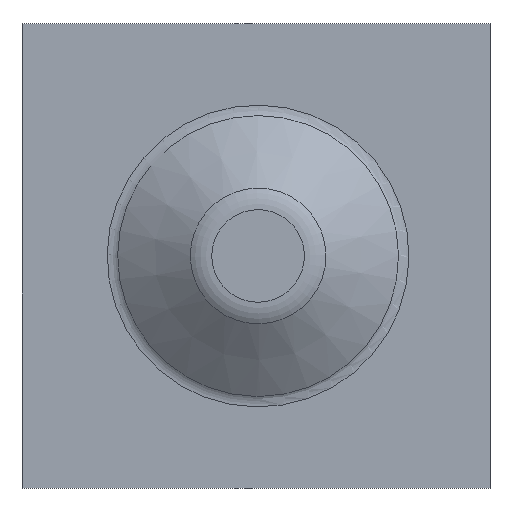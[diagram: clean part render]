
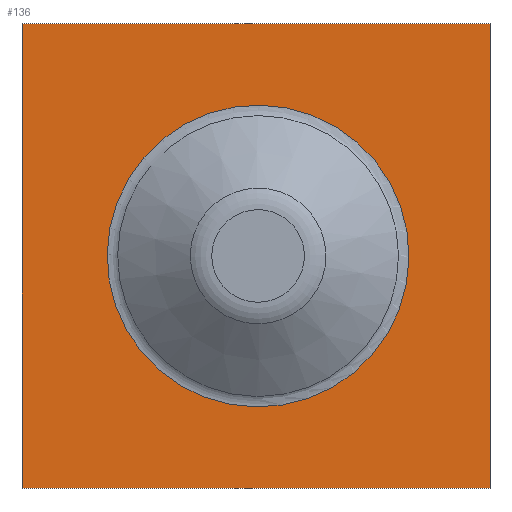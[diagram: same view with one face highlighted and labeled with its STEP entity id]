
A CAD part, top view. The second image highlights one B-rep face of the part: STEP entity #136.
In plain terms, the highlighted planar face has unit normal (0, 0, 1).
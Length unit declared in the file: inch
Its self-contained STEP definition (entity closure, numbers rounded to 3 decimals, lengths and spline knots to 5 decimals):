
#55=CARTESIAN_POINT('',(-5.60162,0.13196,50.86614));
#56=VERTEX_POINT('',#55);
#73=CARTESIAN_POINT('',(-4.08906,0.13196,50.86614));
#74=VERTEX_POINT('',#73);
#81=CARTESIAN_POINT('',(-134.34066,0.13196,50.86614));
#82=DIRECTION('',(1.0,0.0,0.0));
#83=VECTOR('',#82,1.0);
#84=LINE('',#81,#83);
#85=EDGE_CURVE('',#56,#74,#84,.T.);
#95=CARTESIAN_POINT('',(-5.60162,1.63222,50.86614));
#96=VERTEX_POINT('',#95);
#97=CARTESIAN_POINT('',(-5.60162,-937.15051,50.86614));
#98=DIRECTION('',(0.0,1.0,0.0));
#99=VECTOR('',#98,1.0);
#100=LINE('',#97,#99);
#101=EDGE_CURVE('',#56,#96,#100,.T.);
#102=ORIENTED_EDGE('',*,*,#101,.F.);
#103=ORIENTED_EDGE('',*,*,#85,.T.);
#104=CARTESIAN_POINT('',(-4.08906,1.63222,50.86614));
#105=VERTEX_POINT('',#104);
#106=CARTESIAN_POINT('',(-4.08906,-669.53676,50.86614));
#107=DIRECTION('',(0.0,1.0,0.0));
#108=VECTOR('',#107,1.0);
#109=LINE('',#106,#108);
#110=EDGE_CURVE('',#74,#105,#109,.T.);
#111=ORIENTED_EDGE('',*,*,#110,.T.);
#112=CARTESIAN_POINT('',(-987.66062,1.63222,50.86614));
#113=DIRECTION('',(1.0,0.0,0.0));
#114=VECTOR('',#113,1.0);
#115=LINE('',#112,#114);
#116=EDGE_CURVE('',#96,#105,#115,.T.);
#117=ORIENTED_EDGE('',*,*,#116,.F.);
#118=EDGE_LOOP('',(#102,#103,#111,#117));
#119=FACE_OUTER_BOUND('',#118,.T.);
#120=CARTESIAN_POINT('',(-4.84596,0.39428,50.86614));
#121=VERTEX_POINT('',#120);
#122=CARTESIAN_POINT('',(-4.83858,0.88189,50.86614));
#123=DIRECTION('',(0.0,0.0,-1.0));
#124=DIRECTION('',(0.0,-1.0,0.0));
#125=AXIS2_PLACEMENT_3D('',#122,#123,#124);
#126=CIRCLE('',#125,0.48766);
#127=EDGE_CURVE('',#121,#121,#126,.T.);
#128=ORIENTED_EDGE('',*,*,#127,.T.);
#129=EDGE_LOOP('',(#128));
#130=FACE_BOUND('',#129,.T.);
#131=CARTESIAN_POINT('',(0.0,3.54331,50.86614));
#132=DIRECTION('',(0.0,0.0,1.0));
#133=DIRECTION('',(0.0,1.0,0.0));
#134=AXIS2_PLACEMENT_3D('',#131,#132,#133);
#135=PLANE('',#134);
#136=ADVANCED_FACE('',(#119,#130),#135,.T.);
